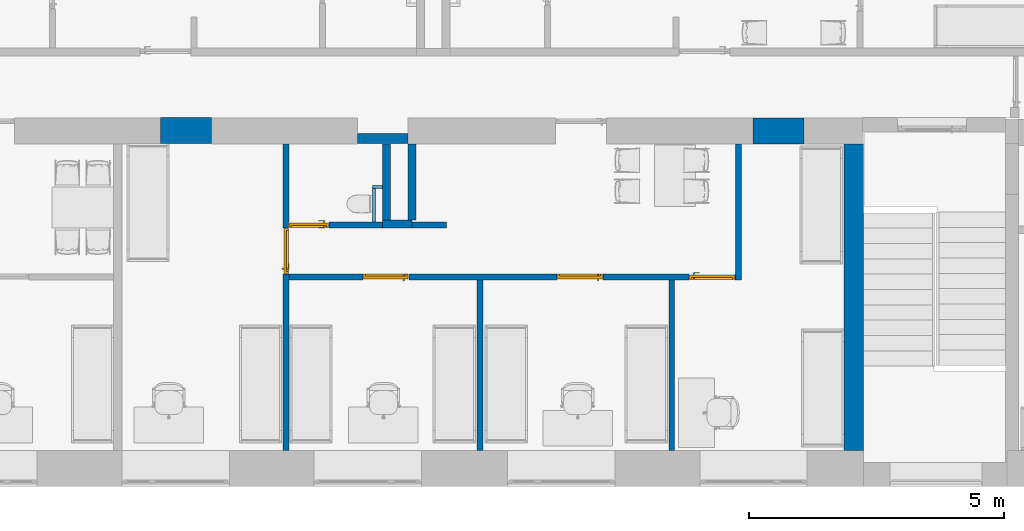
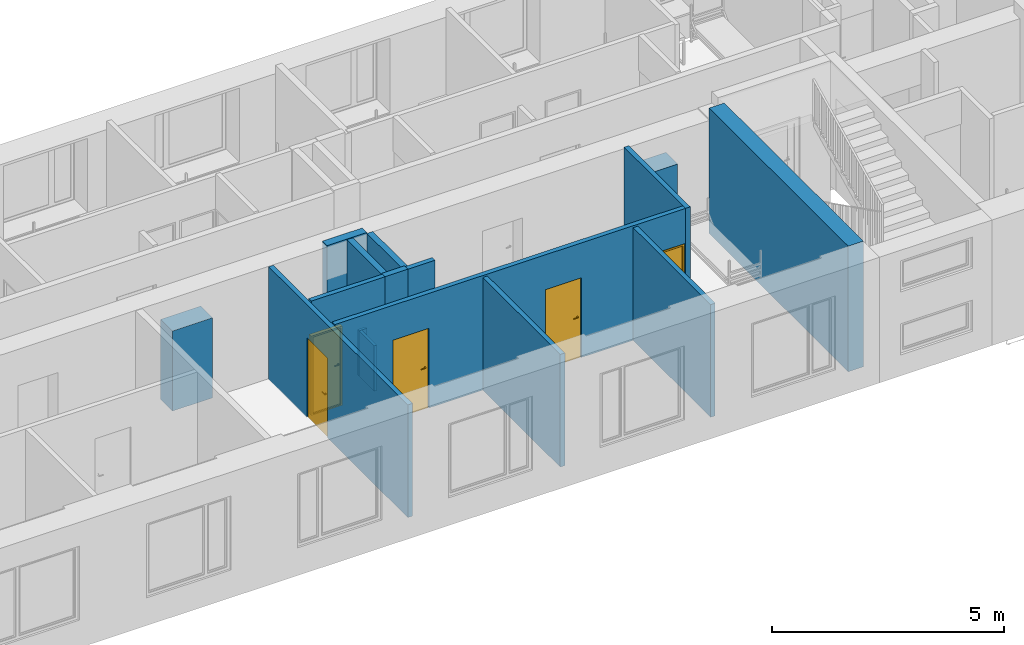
# One storey, part 8 of 48: 16 walls, 5 doors, 6 openings.
"""IFC2X3 building model written with IfcOpenShell, lengths in millimetres."""

import ifcopenshell
import ifcopenshell.guid

model = None  # the IFC model being written
_history = None  # IfcOwnerHistory: only IFC2X3 demands one
_inside = {}  # id of a spatial element -> (the spatial element, [elements in it])
_under = {}  # id of a project, library or spatial element -> (it, [spatial elements below it])
_declared = {}  # id of a project -> (the project, [libraries it declares])
_typed = {}  # id of a type object -> (the type object, [elements of that type])
_made_of = {}  # id of a material, layer set ... -> (it, [elements and type objects made of it])


def new_model(schema):
    """Start an empty IFC model of exactly this schema.

    Asked for "IFC4X3", IfcOpenShell would pick the latest addendum, in which some entities
    have other attributes; the version numbers below select the first issue.
    IFC2X3 requires an IfcOwnerHistory on every rooted entity: one is made here for all.
    """
    global model, _history
    if schema == "IFC4X3":
        model = ifcopenshell.file(schema_version=(4, 3, 0, 0))
    else:
        model = ifcopenshell.file(schema=schema)
    _inside.clear()
    _under.clear()
    _declared.clear()
    _typed.clear()
    _made_of.clear()
    _history = None
    if model.schema == "IFC2X3":
        org = make("IfcOrganization", Name="unknown")
        user = make(
            "IfcPersonAndOrganization",
            ThePerson=make("IfcPerson", FamilyName="unknown"),
            TheOrganization=org,
        )
        app = make(
            "IfcApplication",
            ApplicationDeveloper=org,
            Version="unknown",
            ApplicationFullName="unknown",
            ApplicationIdentifier="unknown",
        )
        _history = make(
            "IfcOwnerHistory",
            OwningUser=user,
            OwningApplication=app,
            ChangeAction="ADDED",
            CreationDate=0,
        )
    return model


def make(cls, **values):
    """One entity of the class cls with the attributes given. An attribute that is None is left unset."""
    return model.create_entity(
        cls, **{name: value for name, value in values.items() if value is not None}
    )


def entity(cls, *values):
    """Any entity or typed value of the class cls, its attributes in the order of the schema. None: left unset."""
    e = model.create_entity(cls)
    for i, value in enumerate(values):
        if value is not None:
            e[i] = value
    return e


def rooted(cls, **values):
    """An entity with a GlobalId (a new one), such as an element, a storey or a relation."""
    return make(cls, GlobalId=ifcopenshell.guid.new(), OwnerHistory=_history, **values)


def si_unit(unit_type, name, prefix=None):
    """IfcSIUnit, for example si_unit("LENGTHUNIT", "METRE", prefix="MILLI")."""
    return make("IfcSIUnit", UnitType=unit_type, Prefix=prefix, Name=name)


def converted_unit(unit_type, name, factor, base, dimensions=None, offset=None):
    """IfcConversionBasedUnit, such as the inch: factor (a typed value) times the base unit."""
    return make(
        "IfcConversionBasedUnit"
        if offset is None
        else "IfcConversionBasedUnitWithOffset",
        ConversionOffset=offset,
        Dimensions=None
        if dimensions is None
        else entity("IfcDimensionalExponents", *dimensions),
        UnitType=unit_type,
        Name=name,
        ConversionFactor=make(
            "IfcMeasureWithUnit", ValueComponent=factor, UnitComponent=base
        ),
    )


def derived_unit(unit_type, elements):
    """IfcDerivedUnit: a product of units, each with its exponent."""
    return make(
        "IfcDerivedUnit",
        Elements=[
            make("IfcDerivedUnitElement", Unit=unit, Exponent=power)
            for unit, power in elements
        ],
        UnitType=unit_type,
    )


def assignment(units):
    """IfcUnitAssignment: the units of a project."""
    return None if units is None else make("IfcUnitAssignment", Units=units)


def point(xyz):
    """IfcCartesianPoint."""
    return None if xyz is None else make("IfcCartesianPoint", Coordinates=xyz)


def direction(xyz):
    """IfcDirection."""
    return None if xyz is None else make("IfcDirection", DirectionRatios=xyz)


def frame(location, z_axis=None, x_axis=None):
    """IfcAxis2Placement3D, a coordinate frame: its origin and axes. An axis left out is left unset."""
    return make(
        "IfcAxis2Placement3D",
        Location=point(location),
        Axis=direction(z_axis),
        RefDirection=direction(x_axis),
    )


def frame_2d(location, x_axis=None):
    """IfcAxis2Placement2D, a coordinate frame in the plane: its origin and x axis."""
    return make(
        "IfcAxis2Placement2D", Location=point(location), RefDirection=direction(x_axis)
    )


def origin():
    """The frame at (0, 0, 0) with its axes left unset."""
    return frame((0.0, 0.0, 0.0))


def place(relative_to, where):
    """IfcLocalPlacement: puts the frame where relative to a parent placement (None: the world)."""
    return make(
        "IfcLocalPlacement", PlacementRelTo=relative_to, RelativePlacement=where
    )


def context(
    kind, dimensions, precision=None, world=None, true_north=None, identifier=None
):
    """IfcGeometricRepresentationContext, for example the 3D "Model" context."""
    return make(
        "IfcGeometricRepresentationContext",
        ContextIdentifier=identifier,
        ContextType=kind,
        CoordinateSpaceDimension=dimensions,
        Precision=precision,
        WorldCoordinateSystem=world,
        TrueNorth=true_north,
    )


def subcontext(parent, identifier, kind, view, scale=None):
    """IfcGeometricRepresentationSubContext, for example "Body" below "Model"."""
    return make(
        "IfcGeometricRepresentationSubContext",
        ContextIdentifier=identifier,
        ContextType=kind,
        ParentContext=parent,
        TargetScale=scale,
        TargetView=view,
    )


def project(units=None, contexts=None):
    """IfcProject with its units and contexts."""
    return rooted(
        "IfcProject",
        Name="project",
        RepresentationContexts=contexts,
        UnitsInContext=assignment(units),
    )


def spatial(cls, under=None, at=None, **own):
    """A site, building, storey or space (cls), placed at a placement, below another one or the project."""
    s = rooted(cls, ObjectPlacement=at, **own)
    if under is not None:
        _under.setdefault(under.id(), (under, []))[1].append(s)
    return s


def profile(cls, at=None, kind="AREA", **sizes):
    """A parametric profile (cls). Its sizes go by their IFC names, for example OverallWidth=200.0."""
    return make(cls, ProfileType=kind, Position=at, **sizes)


def rectangle(**sizes):
    """IfcRectangleProfileDef."""
    return profile("IfcRectangleProfileDef", **sizes)


def extrude(swept, where, along, depth):
    """IfcExtrudedAreaSolid: the profile swept, set in the frame where, extruded along a direction by depth."""
    return make(
        "IfcExtrudedAreaSolid",
        SweptArea=swept,
        Position=where,
        ExtrudedDirection=direction(along),
        Depth=depth,
    )


def faces_of(points, faces, orient=None, outer=None):
    """IfcFace entities. A face is a list of loops; a loop is a list of indices into points, from 0.

    orient and outer hold one flag for each loop. By default every Orientation is true, the
    first loop of a face is its IfcFaceOuterBound and the others are IfcFaceBound.
    """
    made = []
    for i, loops in enumerate(faces):
        bounds = []
        for j, loop in enumerate(loops):
            is_outer = j == 0 if outer is None else outer[i][j]
            bounds.append(
                make(
                    "IfcFaceOuterBound" if is_outer else "IfcFaceBound",
                    Bound=make("IfcPolyLoop", Polygon=[points[k] for k in loop]),
                    Orientation=True if orient is None else orient[i][j],
                )
            )
        made.append(make("IfcFace", Bounds=bounds))
    return made


def faceted_brep(points, faces, orient=None, outer=None, voids=None):
    """IfcFacetedBrep: a solid bounded by flat faces; with voids (closed shells), ...WithVoids."""
    shared = [point(p) for p in points]
    hull = make("IfcClosedShell", CfsFaces=faces_of(shared, faces, orient, outer))
    if voids is None:
        return make("IfcFacetedBrep", Outer=hull)
    return make(
        "IfcFacetedBrepWithVoids",
        Outer=hull,
        Voids=[
            make(cls, CfsFaces=faces_of(shared, fs, o, b)) for cls, fs, o, b in voids
        ],
    )


def shape(context_of_items, identifier, shape_type, items):
    """IfcShapeRepresentation: the items that make up one representation, for example the "Body"."""
    return make(
        "IfcShapeRepresentation",
        ContextOfItems=context_of_items,
        RepresentationIdentifier=identifier,
        RepresentationType=shape_type,
        Items=items,
    )


def source(mapping_origin, context_of_items, identifier, shape_type, items):
    """IfcRepresentationMap: a shape defined once, which mapped items show again and again."""
    return make(
        "IfcRepresentationMap",
        MappingOrigin=mapping_origin,
        MappedRepresentation=shape(context_of_items, identifier, shape_type, items),
    )


def transform(
    local_origin,
    x_axis=None,
    y_axis=None,
    z_axis=None,
    scale=None,
    scale2=None,
    scale3=None,
    uniform=True,
):
    """IfcCartesianTransformationOperator3D, or its non-uniform kind. x_axis, y_axis, z_axis: its Axis1, 2, 3."""
    if uniform:
        return make(
            "IfcCartesianTransformationOperator3D",
            Axis1=direction(x_axis),
            Axis2=direction(y_axis),
            LocalOrigin=point(local_origin),
            Scale=scale,
            Axis3=direction(z_axis),
        )
    return make(
        "IfcCartesianTransformationOperator3DnonUniform",
        Axis1=direction(x_axis),
        Axis2=direction(y_axis),
        LocalOrigin=point(local_origin),
        Scale=scale,
        Axis3=direction(z_axis),
        Scale2=scale2,
        Scale3=scale3,
    )


def mapped(mapping_source, mapping_target):
    """IfcMappedItem: shows the shape of a source again, moved by a transform."""
    return make(
        "IfcMappedItem", MappingSource=mapping_source, MappingTarget=mapping_target
    )


def material(Name=None, Category=None):
    """IfcMaterial."""
    return make("IfcMaterial", Name=Name, Category=Category)


def material_list(materials):
    """IfcMaterialList."""
    return make("IfcMaterialList", Materials=materials)


def layer(
    of_material, thickness, ventilated=None, Name=None, Category=None, Priority=None
):
    """IfcMaterialLayer: one layer of a wall or slab, of a material (None: an air gap)."""
    return make(
        "IfcMaterialLayer",
        Material=of_material,
        LayerThickness=thickness,
        IsVentilated=ventilated,
        Name=Name,
        Category=Category,
        Priority=Priority,
    )


def layer_set(layers, Name=None):
    """IfcMaterialLayerSet."""
    return make("IfcMaterialLayerSet", MaterialLayers=layers, LayerSetName=Name)


def layer_usage(for_layer_set, set_direction, sense, offset, extent=None):
    """IfcMaterialLayerSetUsage: how a layer set lies in its element."""
    return make(
        "IfcMaterialLayerSetUsage",
        ForLayerSet=for_layer_set,
        LayerSetDirection=set_direction,
        DirectionSense=sense,
        OffsetFromReferenceLine=offset,
        ReferenceExtent=extent,
    )


def made_of(thing, what):
    """Note that an element or type object is made of a material, layer set ...; save() writes the relation."""
    if what is not None:
        _made_of.setdefault(what.id(), (what, []))[1].append(thing)
    return thing


def type_object(cls, material=None, **own):
    """A type object (cls), such as IfcWallType, which elements share."""
    return made_of(rooted(cls, **own), material)


def type_shapes(of_type, sources):
    """Give a type object the sources (RepresentationMaps) that its elements show as mapped items."""
    of_type.RepresentationMaps = sources


def element(
    cls,
    number,
    at=None,
    inside=None,
    cuts=None,
    type_object=None,
    material=None,
    context=None,
    identifier="Body",
    shape_type=None,
    held_by="IfcProductDefinitionShape",
    body=None,
    shapes=None,
    **own,
):
    """One element of the class cls, such as IfcWall. Its Tag is "e" and its number.

    at: its placement. inside: the storey or other place that contains it. cuts: it is an
    opening in that element (IfcRelVoidsElement). A single representation is given by context,
    identifier, shape_type and body (its items); several are given by shapes. held_by: the class
    of the entity that holds the representations. save() writes the other relations.
    """
    e = rooted(cls, Tag="e%d" % number, ObjectPlacement=at, **own)
    if body is not None:
        shapes = [shape(context, identifier, shape_type, body)]
    if shapes is not None:
        e.Representation = make(held_by, Representations=shapes)
    if inside is not None:
        _inside.setdefault(inside.id(), (inside, []))[1].append(e)
    if cuts is not None:
        rooted(
            "IfcRelVoidsElement", RelatingBuildingElement=cuts, RelatedOpeningElement=e
        )
    if type_object is not None:
        _typed.setdefault(type_object.id(), (type_object, []))[1].append(e)
    return made_of(e, material)


def fill(opening, filler):
    """IfcRelFillsElement: the door or window that sits in an opening."""
    return rooted(
        "IfcRelFillsElement",
        RelatingOpeningElement=opening,
        RelatedBuildingElement=filler,
    )


def aggregate(whole, parts):
    """IfcRelAggregates: a whole, such as a stair, and the parts it consists of."""
    return rooted("IfcRelAggregates", RelatingObject=whole, RelatedObjects=parts)


def save(model, path):
    """Write the relations noted so far, then the file.

    IfcRelAggregates (storeys below a building ...), IfcRelContainedInSpatialStructure (elements
    in a storey), IfcRelDefinesByType, IfcRelAssociatesMaterial and IfcRelDeclares: one each for
    every whole, place, type object, material and project.
    """
    for whole, parts in _under.values():
        aggregate(whole, parts)
    for where, things in _inside.values():
        rooted(
            "IfcRelContainedInSpatialStructure",
            RelatedElements=things,
            RelatingStructure=where,
        )
    for kind, things in _typed.values():
        rooted("IfcRelDefinesByType", RelatedObjects=things, RelatingType=kind)
    for what, things in _made_of.values():
        rooted("IfcRelAssociatesMaterial", RelatedObjects=things, RelatingMaterial=what)
    for by, libraries in _declared.values():
        rooted("IfcRelDeclares", RelatingContext=by, RelatedDefinitions=libraries)
    model.write(path)


model = new_model("IFC2X3")

# Units and contexts
model_context = context("Model", 3, precision=0.01, world=origin(), true_north=direction((6.12303176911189e-17, 1.0)))
body_context = subcontext(model_context, "Body", "Model", "MODEL_VIEW")
ifc_project = project(units=[si_unit("LENGTHUNIT", "METRE", prefix="MILLI"), si_unit("AREAUNIT", "SQUARE_METRE"), si_unit("VOLUMEUNIT", "CUBIC_METRE"), converted_unit("PLANEANGLEUNIT", "DEGREE", entity("IfcRatioMeasure", 0.0174532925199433), si_unit("PLANEANGLEUNIT", "RADIAN"), dimensions=[0, 0, 0, 0, 0, 0, 0]), si_unit("MASSUNIT", "GRAM", prefix="KILO"), derived_unit("MASSDENSITYUNIT", [(si_unit("MASSUNIT", "GRAM", prefix="KILO"), 1), (si_unit("LENGTHUNIT", "METRE"), -3)]), si_unit("TIMEUNIT", "SECOND"), si_unit("FREQUENCYUNIT", "HERTZ"), si_unit("THERMODYNAMICTEMPERATUREUNIT", "DEGREE_CELSIUS"), derived_unit("THERMALTRANSMITTANCEUNIT", [(si_unit("MASSUNIT", "GRAM", prefix="KILO"), 1), (si_unit("THERMODYNAMICTEMPERATUREUNIT", "KELVIN"), -1), (si_unit("TIMEUNIT", "SECOND"), -3)]), derived_unit("VOLUMETRICFLOWRATEUNIT", [(si_unit("LENGTHUNIT", "METRE"), 3), (si_unit("TIMEUNIT", "SECOND"), -1)]), si_unit("ELECTRICCURRENTUNIT", "AMPERE"), si_unit("ELECTRICVOLTAGEUNIT", "VOLT"), si_unit("POWERUNIT", "WATT"), si_unit("FORCEUNIT", "NEWTON", prefix="KILO"), si_unit("ILLUMINANCEUNIT", "LUX"), si_unit("LUMINOUSFLUXUNIT", "LUMEN"), si_unit("LUMINOUSINTENSITYUNIT", "CANDELA"), derived_unit("USERDEFINED", [(si_unit("MASSUNIT", "GRAM", prefix="KILO"), -1), (si_unit("LENGTHUNIT", "METRE"), -2), (si_unit("TIMEUNIT", "SECOND"), 3), (si_unit("LUMINOUSFLUXUNIT", "LUMEN"), 1)]), derived_unit("LINEARVELOCITYUNIT", [(si_unit("LENGTHUNIT", "METRE"), 1), (si_unit("TIMEUNIT", "SECOND"), -1)]), si_unit("PRESSUREUNIT", "PASCAL"), derived_unit("USERDEFINED", [(si_unit("LENGTHUNIT", "METRE"), -2), (si_unit("MASSUNIT", "GRAM", prefix="KILO"), 1), (si_unit("TIMEUNIT", "SECOND"), -2)]), derived_unit("LINEARFORCEUNIT", [(si_unit("MASSUNIT", "GRAM", prefix="KILO"), 1), (si_unit("LENGTHUNIT", "METRE"), 1), (si_unit("TIMEUNIT", "SECOND"), -2), (si_unit("LENGTHUNIT", "METRE"), -1)]), derived_unit("PLANARFORCEUNIT", [(si_unit("MASSUNIT", "GRAM", prefix="KILO"), 1), (si_unit("LENGTHUNIT", "METRE"), 1), (si_unit("TIMEUNIT", "SECOND"), -2), (si_unit("LENGTHUNIT", "METRE"), -2)])], contexts=[model_context])

# Site, building, storey
site_placement = place(None, origin())
site = spatial("IfcSite", under=ifc_project, at=site_placement, Name="Default", CompositionType="ELEMENT")
building_placement = place(site_placement, origin())
building = spatial("IfcBuilding", under=site, at=building_placement, Name="SMA ARH", CompositionType="ELEMENT")
storey_placement = place(building_placement, frame((0.0, 0.0, 6600.0)))
storey = spatial("IfcBuildingStorey", under=building, at=storey_placement, Name="3 Korrus", CompositionType="ELEMENT", Elevation=6599.99999999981)

# Walls
ifc_material_1 = material(Name="EST. Müüritis. Väikeplokk. Kergkruusplokk")
ifc_layer_1 = layer(ifc_material_1, 150.0)
ifc_layer_set_1 = layer_set([ifc_layer_1], Name="Basic Wall:SS-02_ 150mm šahtide vahesein")
ifc_layer_usage_1 = layer_usage(ifc_layer_set_1, "AXIS2", "NEGATIVE", 75.0)
wall_type_1 = type_object("IfcWallType", Name="Basic Wall:SS-02_ 150mm šahtide vahesein", PredefinedType="STANDARD", material=ifc_layer_set_1)
wall_1_placement = place(storey_placement, frame((21495.0, 6005.0, 0.0), z_axis=(0.0, 0.0, 1.0), x_axis=(0.0, -1.0, 0.0)))
element("IfcWallStandardCase", 1, at=wall_1_placement, inside=storey, type_object=wall_type_1, material=ifc_layer_usage_1, Name="Basic Wall:SS-02_ 150mm šahtide vahesein", ObjectType="Basic Wall:SS-02_ 150mm šahtide vahesein", context=body_context, shape_type="SweptSolid", body=[
    extrude(rectangle(XDim=1494.99999999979, YDim=150.000000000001, at=frame_2d((747.499999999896, -7.105427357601e-15), x_axis=(-1.0, 0.0))), origin(), (0.0, 0.0, 1.0), 2999.9999999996),
])
ifc_layer_usage_2 = layer_usage(ifc_layer_set_1, "AXIS2", "NEGATIVE", 75.0)
wall_2_placement = place(storey_placement, frame((21420.0, 4435.0, -90.0)))
element("IfcWallStandardCase", 2, at=wall_2_placement, inside=storey, type_object=wall_type_1, material=ifc_layer_usage_2, Name="Basic Wall:SS-02_ 150mm šahtide vahesein", ObjectType="Basic Wall:SS-02_ 150mm šahtide vahesein", context=body_context, shape_type="SweptSolid", body=[
    extrude(rectangle(XDim=574.999999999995, YDim=150.0, at=frame_2d((287.499999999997, 7.105427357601e-14), x_axis=(-1.0, 0.0))), origin(), (0.0, 0.0, 1.0), 3109.99999999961),
])
ifc_layer_usage_3 = layer_usage(ifc_layer_set_1, "AXIS2", "NEGATIVE", 75.0)
wall_3_placement = place(storey_placement, frame((21995.0, 4510.0, 0.0), z_axis=(0.0, 0.0, 1.0), x_axis=(0.0, 1.0, 0.0)))
element("IfcWallStandardCase", 3, at=wall_3_placement, inside=storey, type_object=wall_type_1, material=ifc_layer_usage_3, Name="Basic Wall:SS-02_ 150mm šahtide vahesein", ObjectType="Basic Wall:SS-02_ 150mm šahtide vahesein", context=body_context, shape_type="SweptSolid", body=[
    extrude(rectangle(XDim=1494.99999999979, YDim=150.000000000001, at=frame_2d((747.499999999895, 4.2632564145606e-14), x_axis=(-1.0, 0.0))), origin(), (0.0, 0.0, 1.0), 2989.99999999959),
])
ifc_material_2 = material(Name="_ol.olev sein")
ifc_layer_2 = layer(ifc_material_2, 380.0)
ifc_layer_set_2 = layer_set([ifc_layer_2], Name="Basic Wall:Generic - 380mm")
ifc_layer_usage_4 = layer_usage(ifc_layer_set_2, "AXIS2", "POSITIVE", -190.0)
wall_type_2 = type_object("IfcWallType", Name="Basic Wall:Generic - 380mm", PredefinedType="STANDARD", material=ifc_layer_set_2)
wall_4_placement = place(storey_placement, frame((30640.0, 6005.0, 0.0), z_axis=(0.0, 0.0, 1.0), x_axis=(0.0, -1.0, 0.0)))
element("IfcWallStandardCase", 4, at=wall_4_placement, inside=storey, type_object=wall_type_2, material=ifc_layer_usage_4, Name="Basic Wall:Generic - 380mm", ObjectType="Basic Wall:Generic - 380mm", context=body_context, shape_type="SweptSolid", body=[
    extrude(rectangle(XDim=6004.99999999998, YDim=380.0, at=frame_2d((3002.49999999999, 0.0), x_axis=(-1.0, 0.0))), origin(), (0.0, 0.0, 1.0), 3309.99999999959),
])
ifc_material_3 = material(Name="EST. Ehitusplaat. Kipsplaat")
ifc_layer_3 = layer(ifc_material_3, 12.5)
ifc_layer_4 = layer(ifc_material_3, 12.5)
ifc_material_4 = material(Name="EST. Soojustus. Mineraalvill. Default")
ifc_layer_5 = layer(ifc_material_4, 66.0)
ifc_layer_6 = layer(ifc_material_3, 12.5)
ifc_layer_7 = layer(ifc_material_3, 12.5)
ifc_layer_set_3 = layer_set([ifc_layer_3, ifc_layer_4, ifc_layer_5, ifc_layer_6, ifc_layer_7], Name="Basic Wall:SS-05_Kips, 66mm metallkarkass")
ifc_layer_usage_5 = layer_usage(ifc_layer_set_3, "AXIS2", "NEGATIVE", 58.0)
wall_type_3 = type_object("IfcWallType", Name="Basic Wall:SS-05_Kips, 66mm metallkarkass", PredefinedType="STANDARD", material=ifc_layer_set_3)
wall_5_placement = place(storey_placement, frame((28388.4550000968, 6005.0, 0.0), z_axis=(0.0, 0.0, 1.0), x_axis=(0.0, -1.0, 0.0)))
element("IfcWallStandardCase", 5, at=wall_5_placement, inside=storey, type_object=wall_type_3, material=ifc_layer_usage_5, Name="Basic Wall:SS-05_Kips, 66mm metallkarkass", ObjectType="Basic Wall:SS-05_Kips, 66mm metallkarkass", context=body_context, shape_type="SweptSolid", body=[
    extrude(rectangle(XDim=2660.99999999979, YDim=116.0, at=frame_2d((1330.4999999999, 8.17124146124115e-14), x_axis=(-1.0, 0.0))), origin(), (0.0, 0.0, 1.0), 3019.99999999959),
])

# Wall, openings, doors
ifc_layer_usage_6 = layer_usage(ifc_layer_set_3, "AXIS2", "NEGATIVE", 58.0)
wall_6_placement = place(storey_placement, frame((19588.0, 3402.0, 0.0)))
wall_6 = element("IfcWallStandardCase", 6, at=wall_6_placement, inside=storey, type_object=wall_type_3, material=ifc_layer_usage_6, Name="Basic Wall:SS-05_Kips, 66mm metallkarkass", ObjectType="Basic Wall:SS-05_Kips, 66mm metallkarkass", context=body_context, shape_type="SweptSolid", body=[
    extrude(rectangle(XDim=8742.4550000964, YDim=116.0, at=frame_2d((4371.2275000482, 1.17239551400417e-13), x_axis=(-1.0, 0.0))), origin(), (0.0, 0.0, 1.0), 3019.99999999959),
])
opening_1_placement = place(wall_6_placement, frame((7827.95500009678, -58.0, 0.0)))
opening_1 = element("IfcOpeningElement", 7, at=opening_1_placement, cuts=wall_6, Name="SMA_D01, 1-poolne:SU-P-05 - 900x2100 TUBA:1", ObjectType="Opening", context=body_context, shape_type="SweptSolid", body=[
    extrude(rectangle(XDim=2099.99999999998, YDim=900.0, at=frame_2d((1049.99999999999, 450.0), x_axis=(1.0, 0.0))), frame((0.0, 0.0, 0.0), z_axis=(0.0, 1.0, 0.0), x_axis=(0.0, 0.0, 1.0)), (0.0, 0.0, 1.0), 116.0),
])
opening_2_placement = place(wall_6_placement, frame((6144.0, 58.0, 0.0)))
opening_2 = element("IfcOpeningElement", 8, at=opening_2_placement, cuts=wall_6, Name="SMA_D01, 1-poolne:SU-P-05 - 900x2100 TUBA:1", ObjectType="Opening", context=body_context, shape_type="SweptSolid", body=[
    extrude(rectangle(XDim=2099.99999999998, YDim=900.0, at=frame_2d((1049.99999999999, 450.0), x_axis=(1.0, 0.0))), frame((0.0, 0.0, 0.0), z_axis=(0.0, -1.0, 0.0), x_axis=(0.0, 0.0, 1.0)), (0.0, 0.0, 1.0), 116.0),
])
opening_3_placement = place(wall_6_placement, frame((2344.0, 58.0, 0.0)))
opening_3 = element("IfcOpeningElement", 9, at=opening_3_placement, cuts=wall_6, Name="SMA_D01, 1-poolne:SU-P-05 - 900x2100 TUBA:1", ObjectType="Opening", context=body_context, shape_type="SweptSolid", body=[
    extrude(rectangle(XDim=2099.99999999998, YDim=900.0, at=frame_2d((1049.99999999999, 450.0), x_axis=(1.0, 0.0))), frame((0.0, 0.0, 0.0), z_axis=(0.0, -1.0, 0.0), x_axis=(0.0, 0.0, 1.0)), (0.0, 0.0, 1.0), 116.0),
])
ifc_material_5 = material(Name="EST. Metall. Alumiinium. Värvitud. RAL7023 (Concrete grey)")
ifc_material_6 = material(Name="<Unnamed>")
ifc_material_7 = material(Name="EST. Klaas. 3x. Default")
ifc_material_list_1 = material_list([ifc_material_6, ifc_material_7, ifc_material_6, ifc_material_5, ifc_material_5, ifc_material_5, ifc_material_6])
door_style_1 = type_object("IfcDoorStyle", Name="SMA_D01, 1-poolne:SU-P-05 - 900x2100 TUBA", ConstructionType="NOTDEFINED", OperationType="SINGLE_SWING_RIGHT", ParameterTakesPrecedence=False, Sizeable=False, material=ifc_material_list_1)
shared_shape_1 = source(origin(), body_context, "Body", "Brep", [
    faceted_brep([(110.0, 6.0, 1112.5), (110.0, 44.0, 1112.5), (85.0, 44.0, 1112.5), (85.0, 1.0, 1112.5), (205.0, 1.0, 1112.5), (205.0, 6.0, 1112.5), (110.0, 6.0, 1087.5), (205.0, 6.0, 1087.5), (205.0, 1.0, 1087.5), (85.0, 1.0, 1087.5), (85.0, 44.0, 1087.5), (110.0, 44.0, 1087.5)], [[[0, 1, 2, 3, 4, 5]], [[6, 7, 8, 9, 10, 11]], [[1, 0, 6, 11]], [[2, 1, 11, 10]], [[3, 2, 10, 9]], [[4, 3, 9, 8]], [[5, 4, 8, 7]], [[0, 5, 7, 6]]]),
    faceted_brep([(122.5, 44.0, 1137.5), (122.5, 46.0, 1137.5), (72.5000000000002, 46.0, 1137.5), (72.5000000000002, 44.0, 1137.5), (122.5, 44.0, 1017.5), (72.5000000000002, 44.0, 1017.5), (72.5000000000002, 46.0, 1017.5), (122.5, 46.0, 1017.5)], [[[0, 1, 2, 3]], [[4, 5, 6, 7]], [[1, 0, 4, 7]], [[2, 1, 7, 6]], [[3, 2, 6, 5]], [[0, 3, 5, 4]]]),
    faceted_brep([(110.0, 136.0, 1112.5), (205.0, 136.0, 1112.5), (205.0, 141.0, 1112.5), (85.0, 141.0, 1112.5), (85.0, 98.0, 1112.5), (110.0, 98.0, 1112.5), (110.0, 136.0, 1087.5), (110.0, 98.0, 1087.5), (85.0, 98.0, 1087.5), (85.0, 141.0, 1087.5), (205.0, 141.0, 1087.5), (205.0, 136.0, 1087.5)], [[[0, 1, 2, 3, 4, 5]], [[6, 7, 8, 9, 10, 11]], [[5, 7, 6, 0]], [[4, 8, 7, 5]], [[3, 9, 8, 4]], [[2, 10, 9, 3]], [[1, 11, 10, 2]], [[0, 6, 11, 1]]]),
    faceted_brep([(122.5, 98.0, 1137.5), (72.5000000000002, 98.0, 1137.5), (72.5000000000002, 96.0, 1137.5), (122.5, 96.0, 1137.5), (122.5, 98.0, 1017.5), (122.5, 96.0, 1017.5), (72.5000000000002, 96.0, 1017.5), (72.5000000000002, 98.0, 1017.5)], [[[0, 1, 2, 3]], [[4, 5, 6, 7]], [[3, 5, 4, 0]], [[2, 6, 5, 3]], [[1, 7, 6, 2]], [[0, 4, 7, 1]]]),
    faceted_brep([(850.0, 6.0, 30.0), (850.0, 6.0, 0.0), (850.0, 46.0, 0.0), (850.0, 46.0, 20.0), (850.0, 46.0, 30.0), (50.0, 6.0, 30.0), (50.0, 46.0, 30.0), (50.0, 46.0, 20.0), (50.0, 46.0, 0.0), (50.0, 6.0, 0.0), (35.0, 46.0, 0.0), (35.0, 96.0, 0.0), (865.0, 96.0, 0.0), (865.0, 46.0, 0.0), (865.0, 96.0, 20.0), (865.0, 46.0, 20.0), (35.0, 96.0, 20.0), (35.0, 46.0, 20.0)], [[[0, 1, 2, 3, 4]], [[5, 6, 7, 8, 9]], [[1, 0, 5, 9]], [[2, 1, 9, 8, 10, 11, 12, 13]], [[6, 4, 3, 7]], [[0, 4, 6, 5]], [[14, 15, 13, 12]], [[16, 11, 10, 17]], [[15, 14, 16, 17, 7, 3]], [[13, 15, 3, 2]], [[14, 12, 11, 16]], [[17, 10, 8, 7]]]),
    faceted_brep([(890.0, 6.0, 0.0), (850.0, 6.0, 0.0), (850.0, 46.0, 0.0), (865.0, 46.0, 0.0), (865.0, 96.0, 0.0), (890.0, 96.0, 0.0), (890.0, 6.0, 2090.0), (10.0, 6.0, 2090.0), (10.0, 6.0, 0.0), (50.0, 6.0, 0.0), (50.0, 6.0, 2050.0), (850.0, 6.0, 2050.0), (850.0, 46.0, 2050.0), (50.0, 46.0, 2050.0), (50.0, 46.0, 0.0), (35.0, 46.0, 0.0), (35.0, 46.0, 2065.0), (865.0, 46.0, 2065.0), (865.0, 96.0, 2065.0), (35.0, 96.0, 2065.0), (35.0, 96.0, 0.0), (10.0, 96.0, 0.0), (10.0, 96.0, 2090.0), (890.0, 96.0, 2090.0)], [[[0, 1, 2, 3, 4, 5]], [[1, 0, 6, 7, 8, 9, 10, 11]], [[2, 1, 11, 12]], [[3, 2, 12, 13, 14, 15, 16, 17]], [[4, 3, 17, 18]], [[5, 4, 18, 19, 20, 21, 22, 23]], [[0, 5, 23, 6]], [[8, 7, 22, 21]], [[9, 8, 21, 20, 15, 14]], [[10, 9, 14, 13]], [[16, 15, 20, 19]], [[11, 10, 13, 12]], [[17, 16, 19, 18]], [[7, 6, 23, 22]]]),
    faceted_brep([(35.0, 46.0, 2065.0), (35.0, 46.0, 20.0), (865.0, 46.0, 20.0), (865.0, 46.0, 2065.0), (35.0, 96.0, 2065.0), (865.0, 96.0, 2065.0), (865.0, 96.0, 20.0), (35.0, 96.0, 20.0)], [[[0, 1, 2, 3]], [[4, 5, 6, 7]], [[1, 0, 4, 7]], [[2, 1, 7, 6]], [[3, 2, 6, 5]], [[0, 3, 5, 4]]]),
])
type_shapes(door_style_1, [shared_shape_1])
door_1_placement = place(opening_3_placement, frame((0.0, 0.0, 0.0), z_axis=(0.0, 0.0, 1.0), x_axis=(-1.0, 0.0, 0.0)))
door_1 = element("IfcDoor", 10, at=door_1_placement, inside=storey, type_object=door_style_1, material=ifc_material_5, Name="SMA_D01, 1-poolne:SU-P-05 - 900x2100 TUBA", ObjectType="SMA_D01, 1-poolne:SU-P-05 - 900x2100 TUBA", OverallHeight=2099.99999999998, OverallWidth=899.999999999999, context=body_context, shape_type="MappedRepresentation", body=[
    mapped(shared_shape_1, transform((0.0, 0.0, 0.0), scale=1.0)),
])
fill(opening_3, door_1)
door_2_placement = place(opening_2_placement, frame((0.0, 0.0, 0.0), z_axis=(0.0, 0.0, 1.0), x_axis=(-1.0, 0.0, 0.0)))
door_2 = element("IfcDoor", 11, at=door_2_placement, inside=storey, type_object=door_style_1, material=ifc_material_5, Name="SMA_D01, 1-poolne:SU-P-05 - 900x2100 TUBA", ObjectType="SMA_D01, 1-poolne:SU-P-05 - 900x2100 TUBA", OverallHeight=2099.99999999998, OverallWidth=900.000000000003, context=body_context, shape_type="MappedRepresentation", body=[
    mapped(shared_shape_1, transform((0.0, 0.0, 0.0), scale=1.0)),
])
fill(opening_2, door_2)
door_3_placement = place(opening_1_placement, origin())
door_3 = element("IfcDoor", 12, at=door_3_placement, inside=storey, type_object=door_style_1, material=ifc_material_5, Name="SMA_D01, 1-poolne:SU-P-05 - 900x2100 TUBA", ObjectType="SMA_D01, 1-poolne:SU-P-05 - 900x2100 TUBA", OverallHeight=2099.99999999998, OverallWidth=900.000000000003, context=body_context, shape_type="MappedRepresentation", body=[
    mapped(shared_shape_1, transform((0.0, 0.0, 0.0), scale=1.0)),
])
fill(opening_1, door_3)

# Wall
ifc_layer_usage_7 = layer_usage(ifc_layer_set_3, "AXIS2", "NEGATIVE", 58.0)
wall_7_placement = place(storey_placement, frame((23330.0, 0.0, 0.0), z_axis=(0.0, 0.0, 1.0), x_axis=(0.0, 1.0, 0.0)))
element("IfcWallStandardCase", 13, at=wall_7_placement, inside=storey, type_object=wall_type_3, material=ifc_layer_usage_7, Name="Basic Wall:SS-05_Kips, 66mm metallkarkass", ObjectType="Basic Wall:SS-05_Kips, 66mm metallkarkass", context=body_context, shape_type="SweptSolid", body=[
    extrude(rectangle(XDim=3344.00000000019, YDim=116.0, at=frame_2d((1672.0000000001, 1.4210854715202e-14), x_axis=(-1.0, 0.0))), origin(), (0.0, 0.0, 1.0), 2970.00000000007),
])

# Wall, openings, door
ifc_layer_usage_8 = layer_usage(ifc_layer_set_3, "AXIS2", "NEGATIVE", 58.0)
wall_8_placement = place(storey_placement, frame((19530.0, 0.0, 0.0), z_axis=(0.0, 0.0, 1.0), x_axis=(0.0, 1.0, 0.0)))
wall_8 = element("IfcWallStandardCase", 14, at=wall_8_placement, inside=storey, type_object=wall_type_3, material=ifc_layer_usage_8, Name="Basic Wall:SS-05_Kips, 66mm metallkarkass", ObjectType="Basic Wall:SS-05_Kips, 66mm metallkarkass", context=body_context, shape_type="SweptSolid", body=[
    extrude(rectangle(XDim=6004.99999999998, YDim=115.999999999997, at=frame_2d((3002.49999999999, -5.11590769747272e-13), x_axis=(-1.0, 0.0))), origin(), (0.0, 0.0, 1.0), 2970.00000000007),
])
opening_4_placement = place(wall_8_placement, origin())
element("IfcOpeningElement", 15, at=opening_4_placement, cuts=wall_8, Name="Basic Wall:SS-05_Kips, 66mm metallkarkass", ObjectType="Opening", context=body_context, shape_type="SweptSolid", body=[
    extrude(rectangle(XDim=2099.99999999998, YDim=116.0, at=frame_2d((2.70006239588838e-13, -5.6843418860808e-13), x_axis=(0.0, 1.0))), frame((4418.0, -845.499999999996, 1050.0), z_axis=(0.0, 1.0, 0.0), x_axis=(-1.0, 0.0, 0.0)), (0.0, 0.0, 1.0), 800.0),
])
opening_5_placement = place(wall_8_placement, frame((3460.0, -58.0, 0.0)))
opening_5 = element("IfcOpeningElement", 16, at=opening_5_placement, cuts=wall_8, Name="SMA_D01, 1-poolne:SU-P-05 - 900x2100 TUBA:1", ObjectType="Opening", context=body_context, shape_type="SweptSolid", body=[
    extrude(rectangle(XDim=2099.99999999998, YDim=900.0, at=frame_2d((1049.99999999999, 450.0), x_axis=(1.0, 0.0))), frame((0.0, 0.0, 0.0), z_axis=(0.0, 1.0, 0.0), x_axis=(0.0, 0.0, 1.0)), (0.0, 0.0, 1.0), 116.0),
])
door_4_placement = place(opening_5_placement, origin())
door_4 = element("IfcDoor", 17, at=door_4_placement, inside=storey, type_object=door_style_1, material=ifc_material_5, Name="SMA_D01, 1-poolne:SU-P-05 - 900x2100 TUBA", ObjectType="SMA_D01, 1-poolne:SU-P-05 - 900x2100 TUBA", OverallHeight=2099.99999999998, OverallWidth=900.0, context=body_context, shape_type="MappedRepresentation", body=[
    mapped(shared_shape_1, transform((0.0, 0.0, 0.0), scale=1.0)),
])
fill(opening_5, door_4)

# Walls
ifc_layer_usage_9 = layer_usage(ifc_layer_set_3, "AXIS2", "POSITIVE", -58.0)
wall_9_placement = place(storey_placement, frame((27078.5000000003, 0.0, 0.0), z_axis=(0.0, 0.0, 1.0), x_axis=(0.0, 1.0, 0.0)))
element("IfcWallStandardCase", 18, at=wall_9_placement, inside=storey, type_object=wall_type_3, material=ifc_layer_usage_9, Name="Basic Wall:SS-05_Kips, 66mm metallkarkass", ObjectType="Basic Wall:SS-05_Kips, 66mm metallkarkass", context=body_context, shape_type="SweptSolid", body=[
    extrude(rectangle(XDim=3344.00000000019, YDim=116.0, at=frame_2d((1672.0000000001, -1.06581410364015e-14), x_axis=(-1.0, 0.0))), origin(), (0.0, 0.0, 1.0), 2970.00000000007),
])
ifc_layer_8 = layer(ifc_material_3, 12.5)
ifc_layer_9 = layer(ifc_material_3, 12.5)
ifc_material_8 = material(Name="EST. Õhkvahe. Roov. Kipsplaadi alusroov. Vertikaalne")
ifc_layer_10 = layer(ifc_material_8, 66.0)
ifc_layer_11 = layer(ifc_material_3, 12.5)
ifc_layer_12 = layer(ifc_material_3, 12.5)
ifc_layer_set_4 = layer_set([ifc_layer_8, ifc_layer_9, ifc_layer_10, ifc_layer_11, ifc_layer_12], Name="Basic Wall:SS-03_Kips, 66mm metallkarkass")
ifc_layer_usage_10 = layer_usage(ifc_layer_set_4, "AXIS2", "NEGATIVE", 58.0)
wall_type_4 = type_object("IfcWallType", Name="Basic Wall:SS-03_Kips, 66mm metallkarkass", PredefinedType="STANDARD", material=ifc_layer_set_4)
wall_10_placement = place(storey_placement, frame((21995.0, 4418.0, -90.0)))
element("IfcWallStandardCase", 19, at=wall_10_placement, inside=storey, type_object=wall_type_4, material=ifc_layer_usage_10, Name="Basic Wall:SS-03_Kips, 66mm metallkarkass", ObjectType="Basic Wall:SS-03_Kips, 66mm metallkarkass", context=body_context, shape_type="SweptSolid", body=[
    extrude(rectangle(XDim=675.000000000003, YDim=116.0, at=frame_2d((337.500000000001, -6.75015598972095e-13), x_axis=(-1.0, 0.0))), origin(), (0.0, 0.0, 1.0), 3109.99999999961),
])

# Wall, opening, door
wall_11_placement = place(storey_placement, frame((21495.0, 4418.0, 0.0), z_axis=(0.0, 0.0, 1.0), x_axis=(-1.0, 0.0, 0.0)))
wall_11 = element("IfcWall", 20, at=wall_11_placement, inside=storey, type_object=wall_type_4, Name="Basic Wall:SS-03_Kips, 66mm metallkarkass", ObjectType="Basic Wall:SS-03_Kips, 66mm metallkarkass", context=body_context, shape_type="Brep", body=[
    faceted_brep([(1907.0, -58.0, 3020.0), (0.0, -58.0, 3020.0), (0.0, -58.0, 3000.0), (75.0, -58.0, 3000.0), (75.0, -58.0, 0.0), (210.500000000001, -58.0, 0.0), (275.0, -58.0, 0.0), (1119.49999999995, -58.0, 0.0), (1119.49999999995, -58.0, 2100.0), (1907.0, -58.0, 2100.0), (0.0, 58.0, 3020.0), (1907.0, 58.0, 3020.0), (1907.0, 58.0, 2100.0), (1119.49999999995, 58.0, 2100.0), (1119.49999999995, 58.0, 0.0), (75.0, 58.0, 0.0), (75.0, 58.0, 3000.0), (0.0, 58.0, 3000.0)], [[[0, 1, 2, 3, 4, 5, 6, 7, 8, 9]], [[10, 11, 12, 13, 14, 15, 16, 17]], [[4, 15, 14, 7, 6, 5]], [[1, 0, 11, 10]], [[8, 13, 12, 9]], [[13, 8, 7, 14]], [[1, 10, 17, 2]], [[15, 4, 3, 16]], [[2, 17, 16, 3]], [[11, 0, 9, 12]]]),
])
opening_6_placement = place(wall_11_placement, frame((1919.49999999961, 58.0, 0.0)))
opening_6 = element("IfcOpeningElement", 21, at=opening_6_placement, cuts=wall_11, Name="SMA_D01, 1-poolne:SU-P-06 - 800x2100 DUŠŠ:1", ObjectType="Opening", context=body_context, shape_type="SweptSolid", body=[
    extrude(rectangle(XDim=2099.99999999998, YDim=800.0, at=frame_2d((1049.99999999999, 400.0), x_axis=(1.0, 0.0))), frame((0.0, 0.0, 0.0), z_axis=(0.0, -1.0, 0.0), x_axis=(0.0, 0.0, 1.0)), (0.0, 0.0, 1.0), 116.0),
])
ifc_material_list_2 = material_list([ifc_material_7, ifc_material_5, ifc_material_6, ifc_material_5, ifc_material_6, ifc_material_5, ifc_material_6])
door_style_2 = type_object("IfcDoorStyle", Name="SMA_D01, 1-poolne:SU-P-06 - 800x2100 DUŠŠ", ConstructionType="NOTDEFINED", OperationType="SINGLE_SWING_LEFT", ParameterTakesPrecedence=False, Sizeable=False, material=ifc_material_list_2)
shared_shape_2 = source(origin(), body_context, "Body", "Brep", [
    faceted_brep([(690.0, 6.0, 1112.5), (595.0, 6.0, 1112.5), (595.0, 1.0, 1112.5), (715.0, 1.0, 1112.5), (715.0, 44.0, 1112.5), (690.0, 44.0, 1112.5), (690.0, 6.0, 1087.5), (690.0, 44.0, 1087.5), (715.0, 44.0, 1087.5), (715.0, 1.0, 1087.5), (595.0, 1.0, 1087.5), (595.0, 6.0, 1087.5)], [[[0, 1, 2, 3, 4, 5]], [[6, 7, 8, 9, 10, 11]], [[5, 7, 6, 0]], [[4, 8, 7, 5]], [[3, 9, 8, 4]], [[2, 10, 9, 3]], [[1, 11, 10, 2]], [[0, 6, 11, 1]]]),
    faceted_brep([(677.500000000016, 44.0, 1137.5), (727.500000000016, 44.0, 1137.5), (727.500000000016, 46.0, 1137.5), (677.500000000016, 46.0, 1137.5), (677.500000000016, 44.0, 1017.5), (677.500000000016, 46.0, 1017.5), (727.500000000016, 46.0, 1017.5), (727.500000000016, 44.0, 1017.5)], [[[0, 1, 2, 3]], [[4, 5, 6, 7]], [[3, 5, 4, 0]], [[2, 6, 5, 3]], [[1, 7, 6, 2]], [[0, 4, 7, 1]]]),
    faceted_brep([(690.0, 136.0, 1112.5), (690.0, 98.0, 1112.5), (715.0, 98.0, 1112.5), (715.0, 141.0, 1112.5), (595.0, 141.0, 1112.5), (595.0, 136.0, 1112.5), (690.0, 136.0, 1087.5), (595.0, 136.0, 1087.5), (595.0, 141.0, 1087.5), (715.0, 141.0, 1087.5), (715.0, 98.0, 1087.5), (690.0, 98.0, 1087.5)], [[[0, 1, 2, 3, 4, 5]], [[6, 7, 8, 9, 10, 11]], [[1, 0, 6, 11]], [[2, 1, 11, 10]], [[3, 2, 10, 9]], [[4, 3, 9, 8]], [[5, 4, 8, 7]], [[0, 5, 7, 6]]]),
    faceted_brep([(677.500000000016, 98.0, 1137.5), (677.500000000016, 96.0, 1137.5), (727.500000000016, 96.0, 1137.5), (727.500000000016, 98.0, 1137.5), (677.500000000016, 98.0, 1017.5), (727.500000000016, 98.0, 1017.5), (727.500000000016, 96.0, 1017.5), (677.500000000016, 96.0, 1017.5)], [[[0, 1, 2, 3]], [[4, 5, 6, 7]], [[1, 0, 4, 7]], [[2, 1, 7, 6]], [[3, 2, 6, 5]], [[0, 3, 5, 4]]]),
    faceted_brep([(50.0, 6.0, 30.0), (50.0, 46.0, 30.0), (50.0, 46.0, 20.0), (50.0, 46.0, 0.0), (50.0, 6.0, 0.0), (750.0, 6.0, 30.0), (750.0, 6.0, 0.0), (750.0, 46.0, 0.0), (750.0, 46.0, 20.0), (750.0, 46.0, 30.0), (35.0, 46.0, 0.0), (35.0, 96.0, 0.0), (765.0, 96.0, 0.0), (765.0, 46.0, 0.0), (35.0, 96.0, 20.0), (35.0, 46.0, 20.0), (765.0, 96.0, 20.0), (765.0, 46.0, 20.0)], [[[0, 1, 2, 3, 4]], [[5, 6, 7, 8, 9]], [[4, 6, 5, 0]], [[3, 10, 11, 12, 13, 7, 6, 4]], [[9, 8, 2, 1]], [[0, 5, 9, 1]], [[14, 11, 10, 15]], [[16, 17, 13, 12]], [[15, 2, 8, 17, 16, 14]], [[10, 3, 2, 15]], [[14, 16, 12, 11]], [[17, 8, 7, 13]]]),
    faceted_brep([(10.0, 6.0, 0.0), (10.0, 96.0, 0.0), (35.0, 96.0, 0.0), (35.0, 46.0, 0.0), (50.0, 46.0, 0.0), (50.0, 6.0, 0.0), (50.0, 6.0, 2050.0), (750.0, 6.0, 2050.0), (750.0, 6.0, 0.0), (790.0, 6.0, 0.0), (790.0, 6.0, 2090.0), (10.0, 6.0, 2090.0), (50.0, 46.0, 2050.0), (35.0, 46.0, 2065.0), (765.0, 46.0, 2065.0), (765.0, 46.0, 0.0), (750.0, 46.0, 0.0), (750.0, 46.0, 2050.0), (35.0, 96.0, 2065.0), (10.0, 96.0, 2090.0), (790.0, 96.0, 2090.0), (790.0, 96.0, 0.0), (765.0, 96.0, 0.0), (765.0, 96.0, 2065.0)], [[[0, 1, 2, 3, 4, 5]], [[5, 6, 7, 8, 9, 10, 11, 0]], [[4, 12, 6, 5]], [[3, 13, 14, 15, 16, 17, 12, 4]], [[2, 18, 13, 3]], [[1, 19, 20, 21, 22, 23, 18, 2]], [[0, 11, 19, 1]], [[9, 21, 20, 10]], [[8, 16, 15, 22, 21, 9]], [[7, 17, 16, 8]], [[14, 23, 22, 15]], [[6, 12, 17, 7]], [[13, 18, 23, 14]], [[10, 20, 19, 11]]]),
    faceted_brep([(765.0, 46.0, 2065.0), (35.0, 46.0, 2065.0), (35.0, 46.0, 20.0), (765.0, 46.0, 20.0), (765.0, 96.0, 2065.0), (765.0, 96.0, 20.0), (35.0, 96.0, 20.0), (35.0, 96.0, 2065.0)], [[[0, 1, 2, 3]], [[4, 5, 6, 7]], [[3, 5, 4, 0]], [[2, 6, 5, 3]], [[1, 7, 6, 2]], [[0, 4, 7, 1]]]),
])
type_shapes(door_style_2, [shared_shape_2])
door_5_placement = place(opening_6_placement, frame((0.0, 0.0, 0.0), z_axis=(0.0, 0.0, 1.0), x_axis=(-1.0, 0.0, 0.0)))
door_5 = element("IfcDoor", 22, at=door_5_placement, inside=storey, type_object=door_style_2, material=ifc_material_5, Name="SMA_D01, 1-poolne:SU-P-06 - 800x2100 DUŠŠ", ObjectType="SMA_D01, 1-poolne:SU-P-06 - 800x2100 DUŠŠ", OverallHeight=2099.99999999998, OverallWidth=800.0, context=body_context, shape_type="MappedRepresentation", body=[
    mapped(shared_shape_2, transform((0.0, 0.0, 0.0), scale=1.0)),
])
fill(opening_6, door_5)

# Walls
ifc_material_9 = material(Name="EST. Põrand. Plaatkate")
ifc_layer_13 = layer(ifc_material_9, 10.0)
ifc_layer_14 = layer(ifc_material_3, 12.5)
ifc_layer_15 = layer(ifc_material_8, 42.0)
ifc_layer_set_5 = layer_set([ifc_layer_13, ifc_layer_14, ifc_layer_15], Name="Basic Wall:SS-04 - loputuskast")
ifc_layer_usage_11 = layer_usage(ifc_layer_set_5, "AXIS2", "NEGATIVE", 32.25)
wall_type_5 = type_object("IfcWallType", Name="Basic Wall:SS-04 - loputuskast", PredefinedType="STANDARD", material=ifc_layer_set_5)
wall_12_placement = place(storey_placement, frame((21252.2500000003, 4476.0, 0.0), z_axis=(0.0, 0.0, 1.0), x_axis=(0.0, 1.0, 0.0)))
element("IfcWallStandardCase", 23, at=wall_12_placement, inside=storey, type_object=wall_type_5, material=ifc_layer_usage_11, Name="Basic Wall:SS-04 - loputuskast", ObjectType="Basic Wall:SS-04 - loputuskast", context=body_context, shape_type="SweptSolid", body=[
    extrude(rectangle(XDim=652.500000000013, YDim=64.5000000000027, at=frame_2d((326.250000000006, 0.0), x_axis=(-1.0, 0.0))), origin(), (0.0, 0.0, 1.0), 1200.0),
])
ifc_layer_usage_12 = layer_usage(ifc_layer_set_5, "AXIS2", "NEGATIVE", 32.25)
wall_13_placement = place(storey_placement, frame((21220.0, 5160.74999999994, 0.0)))
element("IfcWallStandardCase", 24, at=wall_13_placement, inside=storey, type_object=wall_type_5, material=ifc_layer_usage_12, Name="Basic Wall:SS-04 - loputuskast", ObjectType="Basic Wall:SS-04 - loputuskast", context=body_context, shape_type="SweptSolid", body=[
    extrude(rectangle(XDim=199.999999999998, YDim=64.5000000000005, at=frame_2d((99.9999999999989, 0.0), x_axis=(-1.0, 0.0))), origin(), (0.0, 0.0, 1.0), 1200.0),
])
ifc_layer_16 = layer(ifc_material_1, 200.0)
ifc_layer_set_6 = layer_set([ifc_layer_16], Name="Basic Wall:SS-00_Fibo 200mm")
ifc_layer_usage_13 = layer_usage(ifc_layer_set_6, "AXIS2", "NEGATIVE", 100.0)
wall_type_6 = type_object("IfcWallType", Name="Basic Wall:SS-00_Fibo 200mm", PredefinedType="STANDARD", material=ifc_layer_set_6)
wall_14_placement = place(storey_placement, frame((20930.0, 6110.0, 0.0)))
element("IfcWallStandardCase", 25, at=wall_14_placement, inside=storey, type_object=wall_type_6, material=ifc_layer_usage_13, Name="Basic Wall:SS-00_Fibo 200mm", ObjectType="Basic Wall:SS-00_Fibo 200mm", context=body_context, shape_type="SweptSolid", body=[
    extrude(rectangle(XDim=989.999999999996, YDim=200.0, at=frame_2d((494.999999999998, -1.4210854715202e-14), x_axis=(-1.0, 0.0))), origin(), (0.0, 0.0, 1.0), 3009.99999999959),
])
ifc_layer_17 = layer(ifc_material_1, 510.0)
ifc_layer_set_7 = layer_set([ifc_layer_17], Name="Basic Wall:SS-03_Fibo 510mm kinnilaotav ava")
ifc_layer_usage_14 = layer_usage(ifc_layer_set_7, "AXIS2", "NEGATIVE", 255.0)
wall_type_7 = type_object("IfcWallType", Name="Basic Wall:SS-03_Fibo 510mm kinnilaotav ava", PredefinedType="STANDARD", material=ifc_layer_set_7)
wall_15_placement = place(storey_placement, frame((17075.0, 6265.0, 0.0)))
element("IfcWallStandardCase", 26, at=wall_15_placement, inside=storey, type_object=wall_type_7, material=ifc_layer_usage_14, Name="Basic Wall:SS-03_Fibo 510mm kinnilaotav ava", ObjectType="Basic Wall:SS-03_Fibo 510mm kinnilaotav ava", context=body_context, shape_type="SweptSolid", body=[
    extrude(rectangle(XDim=1000.0, YDim=510.000000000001, at=frame_2d((500.0, 0.0), x_axis=(-1.0, 0.0))), origin(), (0.0, 0.0, 1.0), 2109.99999999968),
])
ifc_layer_usage_15 = layer_usage(ifc_layer_set_7, "AXIS2", "NEGATIVE", 255.0)
wall_16_placement = place(storey_placement, frame((28665.0, 6255.0, 0.0)))
element("IfcWallStandardCase", 27, at=wall_16_placement, inside=storey, type_object=wall_type_7, material=ifc_layer_usage_15, Name="Basic Wall:SS-03_Fibo 510mm kinnilaotav ava", ObjectType="Basic Wall:SS-03_Fibo 510mm kinnilaotav ava", context=body_context, shape_type="SweptSolid", body=[
    extrude(rectangle(XDim=999.999999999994, YDim=510.000000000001, at=frame_2d((499.999999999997, 0.0), x_axis=(-1.0, 0.0))), origin(), (0.0, 0.0, 1.0), 2109.99999999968),
])

save(model, "model.ifc")
